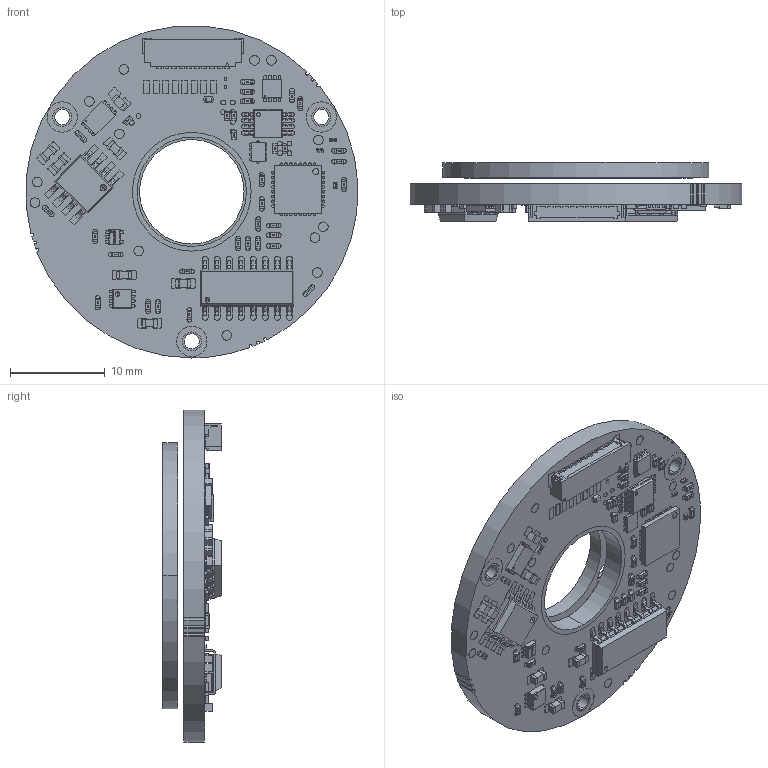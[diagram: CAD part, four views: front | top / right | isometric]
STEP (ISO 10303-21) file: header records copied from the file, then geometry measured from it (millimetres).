
FILE_DESCRIPTION (( 'STEP AP214' ), '1' );
FILE_NAME ('VLX-35 16-15 Hollow rotor.STEP', '2025-03-23T12:55:00', ( '' ), ( '' ), 'SwSTEP 2.0', 'SolidWorks 2022', '' );
FILE_SCHEMA (( 'AUTOMOTIVE_DESIGN' ));
Length unit declared in the file: millimetre
Products named in the file (5): PB-00552_Fine 16 Coarse 15; VLX-35 16-15 Hollow rotor; PB-00142-00-STP; PB-00142_F 16 C 15; EA-00142
Assembly tree (4 placements, depth 3):
  VLX-35 16-15 Hollow rotor
    EA-00142
      PB-00142_F 16 C 15
      PB-00142-00-STP
    PB-00552_Fine 16 Coarse 15
Bounding box: 34.93 x 6.17 x 34.95 mm (x, y, z)
Volume: 2680.4 mm3; surface area: 4101.2 mm2
Topology: 2 solids, 250 shells, 7188 faces, 17771 edges, 11574 vertices
Faces by surface type: plane 4664, cylinder 1213, bspline 1169, sphere 132, cone 6, torus 4
Entity records: 353992 total; most frequent: CARTESIAN_POINT 109595, ORIENTED_EDGE 35254, DIRECTION 29829, EDGE_CURVE 17643, VECTOR 12837, LINE 12837, VERTEX_POINT 11574, AXIS2_PLACEMENT_3D 8496
